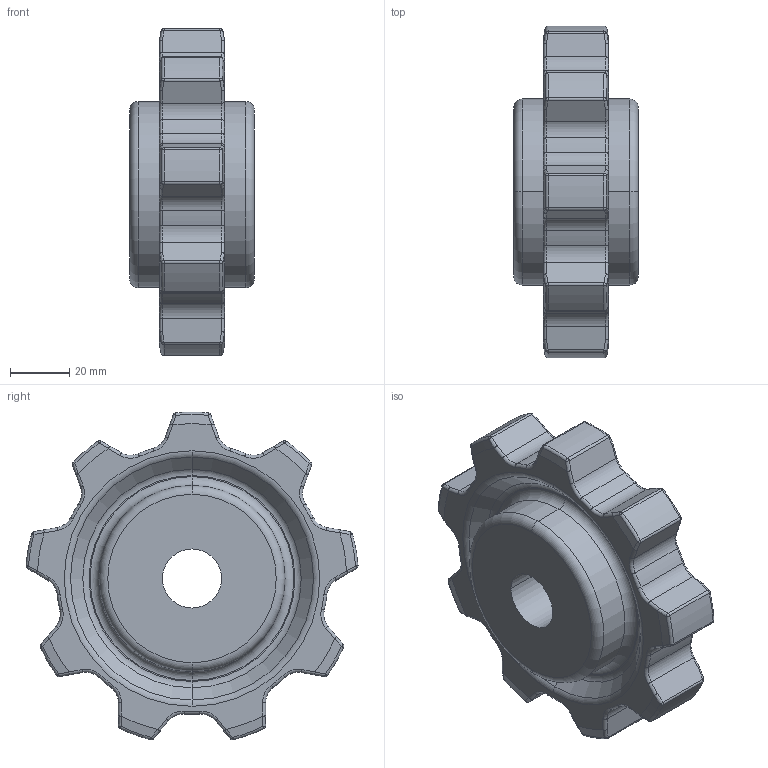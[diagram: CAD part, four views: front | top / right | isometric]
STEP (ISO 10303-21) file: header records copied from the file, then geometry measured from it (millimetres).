
FILE_DESCRIPTION((''),'2;1');
FILE_NAME('39Z09','2011-06-30T',('mth'),(''),'PRO/ENGINEER BY PARAMETRIC TECHNOLOGY CORPORATION, 2010280','PRO/ENGINEER BY PARAMETRIC TECHNOLOGY CORPORATION, 2010280','');
FILE_SCHEMA(('CONFIG_CONTROL_DESIGN','SHAPE_APPEARANCE_LAYERS_GROUPS'));
Length unit declared in the file: millimetre
Products named in the file (1): 39Z09
Bounding box: 42.3 x 112.37 x 110.93 mm (x, y, z)
Volume: 209967.3 mm3; surface area: 33480.1 mm2
Topology: 1 solids, 1 shells, 302 faces, 692 edges, 396 vertices
Faces by surface type: cylinder 96, torus 88, bspline 36, sphere 36, plane 24, cone 22
Entity records: 11422 total; most frequent: CARTESIAN_POINT 2641, DIRECTION 1474, ORIENTED_EDGE 1384, PRESENTATION_STYLE_ASSIGNMENT 693, STYLED_ITEM 693, CURVE_STYLE 692, EDGE_CURVE 692, AXIS2_PLACEMENT_3D 660
